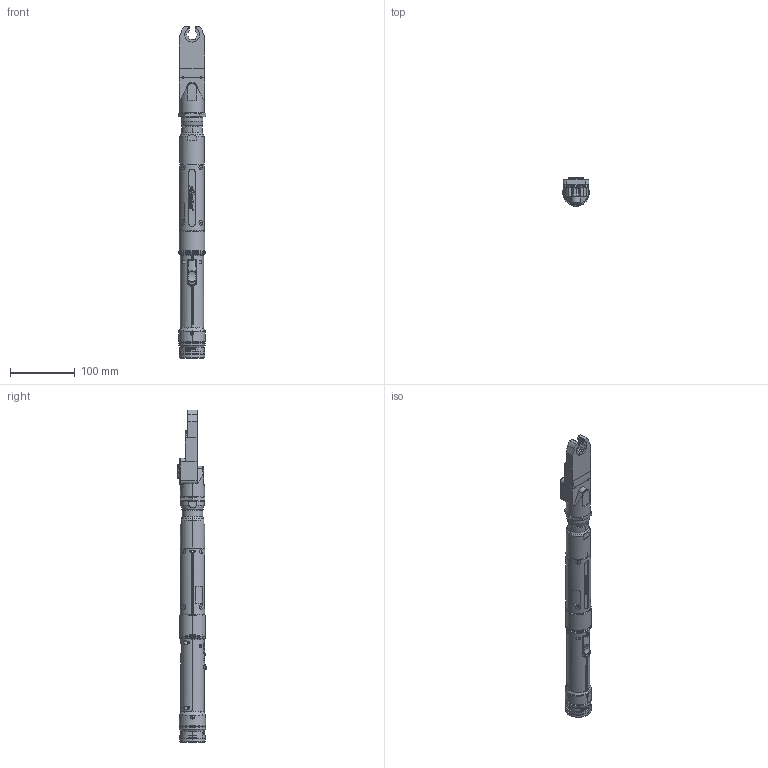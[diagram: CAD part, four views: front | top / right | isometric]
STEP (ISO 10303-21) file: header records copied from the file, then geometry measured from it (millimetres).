
FILE_DESCRIPTION (( 'STEP AP214' ), '1' );
FILE_NAME ('AET4AB22021C.STEP', '2021-08-20T23:59:00', ( '' ), ( '' ), 'SwSTEP 2.0', 'SolidWorks 2021', '' );
FILE_SCHEMA (( 'AUTOMOTIVE_DESIGN' ));
Length unit declared in the file: inch
Products named in the file (1): AET4AB22021C
Bounding box: 42.7 x 43.81 x 510.84 mm (x, y, z)
Surface area: 91317 mm2 (no closed solid volume)
Topology: 0 solids, 85 shells, 944 faces, 3677 edges, 2722 vertices
Faces by surface type: plane 350, cylinder 266, bspline 133, torus 107, cone 74, sphere 14
Entity records: 63241 total; most frequent: CARTESIAN_POINT 22827, ORIENTED_EDGE 5389, DIRECTION 5161, EDGE_CURVE 3673, VERTEX_POINT 2722, AXIS2_PLACEMENT_3D 1744, VECTOR 1673, LINE 1673
